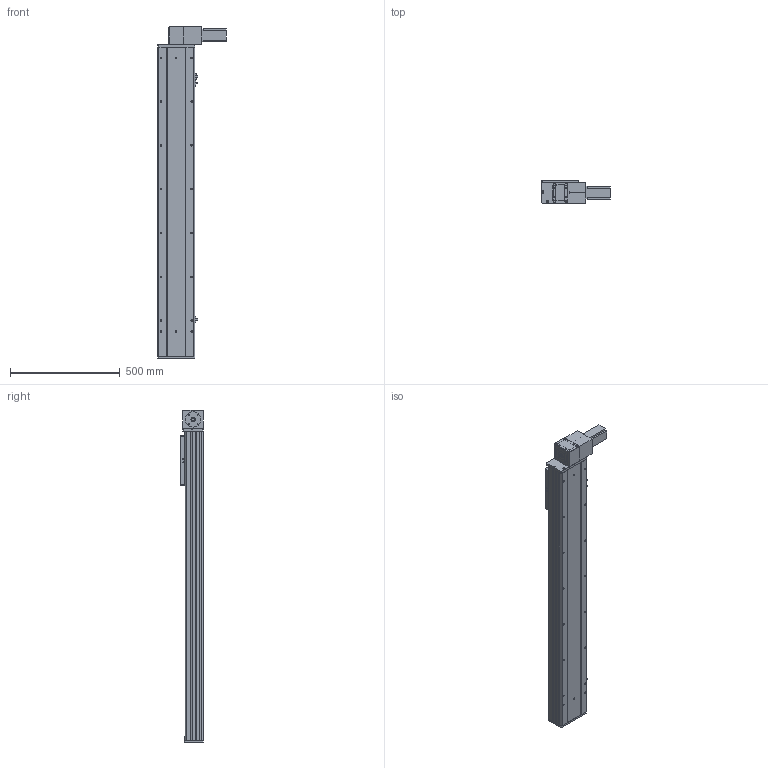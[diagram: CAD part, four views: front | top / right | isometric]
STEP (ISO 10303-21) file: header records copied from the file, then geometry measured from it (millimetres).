
FILE_DESCRIPTION (( 'STEP AP203' ), '1' );
FILE_NAME ('Y170CB-D105-S1100-BD-P400W.STEP', '2020-02-20T08:36:56', ( '微软用户' ), ( '微软中国' ), 'SwSTEP 2.0', 'SolidWorks 2017', '' );
FILE_SCHEMA (( 'CONFIG_CONTROL_DESIGN' ));
Length unit declared in the file: millimetre
Products named in the file (16): B-源倛裔啣; 70CB-詩湍--; san松下电机400不带刹车----; Y100-135俋离換覜ん--; 70CB-掛极-; Y170CB-陔俋离換覜結え---; --70CB --喘謫眊楊擘啣-; Y1埴倛裔; 70CB-耜裔啣-; 70B喘謫眊----; 70C--詩湍揤踡え-; 0B薊粣ん眊-400W--; 70CB--耜裔; Y170CB-D105-S1100-BD-P400W; 70C-雄赽釱-奻-; 0C--雄赽釱俋欶-170
Assembly tree (19 placements, depth 2):
  Y170CB-D105-S1100-BD-P400W
    B-源倛裔啣
    san松下电机400不带刹车----
    70CB-掛极-
    --70CB --喘謫眊楊擘啣-
    70CB-耜裔啣-  x2
    70C--詩湍揤踡え-  x2
    70CB--耜裔
    70C-雄赽釱-奻-
    0C--雄赽釱俋欶-170
    70CB-詩湍--
    Y100-135俋离換覜ん--  x3
    Y170CB-陔俋离換覜結え---
    Y1埴倛裔
    70B喘謫眊----
    0B薊粣ん眊-400W--
Bounding box: 313.5 x 107 x 1516 mm (x, y, z)
Volume: 7219964.6 mm3; surface area: 2459438.2 mm2
Topology: 19 solids, 19 shells, 928 faces, 2450 edges, 1624 vertices
Faces by surface type: cylinder 482, plane 422, cone 24
Entity records: 29011 total; most frequent: CARTESIAN_POINT 5386, DIRECTION 4719, ORIENTED_EDGE 4382, EDGE_CURVE 2191, AXIS2_PLACEMENT_3D 1741, VERTEX_POINT 1454, VECTOR 1237, LINE 1237
